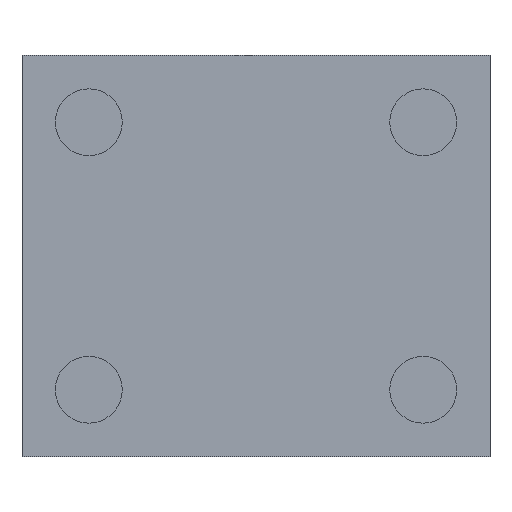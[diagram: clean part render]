
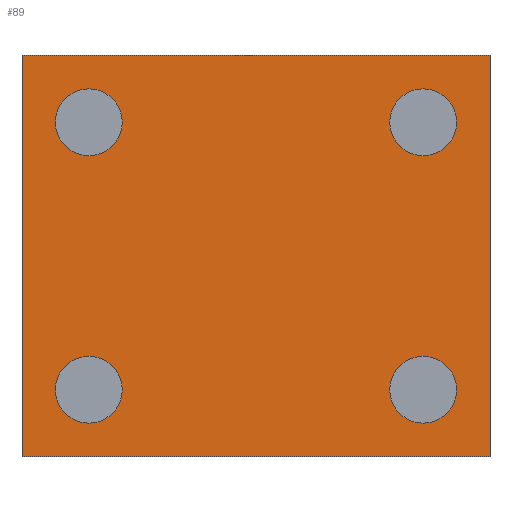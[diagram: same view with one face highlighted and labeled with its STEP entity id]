
A CAD part, left-side view. The second image highlights one B-rep face of the part: STEP entity #89.
In plain terms, the highlighted planar face has unit normal (-1, 0, 0).
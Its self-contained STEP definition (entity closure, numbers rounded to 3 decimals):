
#89=ADVANCED_FACE('',(#202,#203,#204,#205,#206),#207,.T.);
#202=FACE_OUTER_BOUND('',#338,.T.);
#203=FACE_BOUND('',#339,.T.);
#204=FACE_BOUND('',#340,.T.);
#205=FACE_BOUND('',#341,.T.);
#206=FACE_BOUND('',#342,.T.);
#207=PLANE('',#343);
#338=EDGE_LOOP('',(#536,#537,#538,#539));
#339=EDGE_LOOP('',(#540,#541));
#340=EDGE_LOOP('',(#542,#543));
#341=EDGE_LOOP('',(#544,#545));
#342=EDGE_LOOP('',(#546,#547));
#343=AXIS2_PLACEMENT_3D('',#548,#549,#550);
#536=ORIENTED_EDGE('',*,*,#838,.T.);
#537=ORIENTED_EDGE('',*,*,#839,.F.);
#538=ORIENTED_EDGE('',*,*,#840,.T.);
#539=ORIENTED_EDGE('',*,*,#841,.T.);
#540=ORIENTED_EDGE('',*,*,#779,.T.);
#541=ORIENTED_EDGE('',*,*,#842,.T.);
#542=ORIENTED_EDGE('',*,*,#824,.T.);
#543=ORIENTED_EDGE('',*,*,#843,.T.);
#544=ORIENTED_EDGE('',*,*,#844,.T.);
#545=ORIENTED_EDGE('',*,*,#845,.T.);
#546=ORIENTED_EDGE('',*,*,#796,.T.);
#547=ORIENTED_EDGE('',*,*,#834,.T.);
#548=CARTESIAN_POINT('',(-5.,80.0,-30.0));
#549=DIRECTION('',(-1.0,0.,0.0));
#550=DIRECTION('',(0.,-1.0,0.0));
#779=EDGE_CURVE('',#911,#915,#917,.T.);
#796=EDGE_CURVE('',#940,#944,#946,.T.);
#824=EDGE_CURVE('',#991,#995,#997,.T.);
#834=EDGE_CURVE('',#944,#940,#1011,.T.);
#838=EDGE_CURVE('',#1015,#1016,#1017,.T.);
#839=EDGE_CURVE('',#1018,#1016,#1019,.T.);
#840=EDGE_CURVE('',#1018,#1020,#1021,.T.);
#841=EDGE_CURVE('',#1020,#1015,#1022,.T.);
#842=EDGE_CURVE('',#915,#911,#1023,.T.);
#843=EDGE_CURVE('',#995,#991,#1024,.T.);
#844=EDGE_CURVE('',#1025,#1026,#1027,.T.);
#845=EDGE_CURVE('',#1026,#1025,#1028,.T.);
#911=VERTEX_POINT('',#1108);
#915=VERTEX_POINT('',#1113);
#917=CIRCLE('',#1116,5.0);
#940=VERTEX_POINT('',#1141);
#944=VERTEX_POINT('',#1146);
#946=CIRCLE('',#1149,5.0);
#991=VERTEX_POINT('',#1206);
#995=VERTEX_POINT('',#1211);
#997=CIRCLE('',#1214,5.0);
#1011=CIRCLE('',#1233,5.0);
#1015=VERTEX_POINT('',#1237);
#1016=VERTEX_POINT('',#1238);
#1017=LINE('',#1239,#1240);
#1018=VERTEX_POINT('',#1241);
#1019=LINE('',#1242,#1243);
#1020=VERTEX_POINT('',#1244);
#1021=LINE('',#1245,#1246);
#1022=LINE('',#1247,#1248);
#1023=CIRCLE('',#1249,5.0);
#1024=CIRCLE('',#1250,5.0);
#1025=VERTEX_POINT('',#1251);
#1026=VERTEX_POINT('',#1252);
#1027=CIRCLE('',#1253,5.0);
#1028=CIRCLE('',#1254,5.0);
#1108=CARTESIAN_POINT('',(-5.,55.0,-25.0));
#1113=CARTESIAN_POINT('',(-5.,55.0,-15.0));
#1116=AXIS2_PLACEMENT_3D('',#1358,#1359,#1360);
#1141=CARTESIAN_POINT('',(-5.,105.0,15.0));
#1146=CARTESIAN_POINT('',(-5.,105.0,25.0));
#1149=AXIS2_PLACEMENT_3D('',#1389,#1390,#1391);
#1206=CARTESIAN_POINT('',(-5.,105.0,-25.0));
#1211=CARTESIAN_POINT('',(-5.,105.0,-15.0));
#1214=AXIS2_PLACEMENT_3D('',#1436,#1437,#1438);
#1233=AXIS2_PLACEMENT_3D('',#1447,#1448,#1449);
#1237=CARTESIAN_POINT('',(-5.,45.0,30.0));
#1238=CARTESIAN_POINT('',(-5.,115.0,30.0));
#1239=CARTESIAN_POINT('',(-5.,115.0,30.0));
#1240=VECTOR('',#1453,1.0);
#1241=CARTESIAN_POINT('',(-5.,115.0,-30.0));
#1242=CARTESIAN_POINT('',(-5.,115.0,-30.0));
#1243=VECTOR('',#1454,1.0);
#1244=CARTESIAN_POINT('',(-5.,45.0,-30.0));
#1245=CARTESIAN_POINT('',(-5.,115.0,-30.0));
#1246=VECTOR('',#1455,1.0);
#1247=CARTESIAN_POINT('',(-5.,45.0,-30.0));
#1248=VECTOR('',#1456,1.0);
#1249=AXIS2_PLACEMENT_3D('',#1457,#1458,#1459);
#1250=AXIS2_PLACEMENT_3D('',#1460,#1461,#1462);
#1251=CARTESIAN_POINT('',(-5.,55.0,15.0));
#1252=CARTESIAN_POINT('',(-5.,55.0,25.0));
#1253=AXIS2_PLACEMENT_3D('',#1463,#1464,#1465);
#1254=AXIS2_PLACEMENT_3D('',#1466,#1467,#1468);
#1358=CARTESIAN_POINT('',(-5.,55.0,-20.0));
#1359=DIRECTION('',(1.0,0.,0.));
#1360=DIRECTION('',(0.0,0.,-1.0));
#1389=CARTESIAN_POINT('',(-5.,105.0,20.0));
#1390=DIRECTION('',(1.0,0.,0.));
#1391=DIRECTION('',(0.0,0.,-1.0));
#1436=CARTESIAN_POINT('',(-5.,105.0,-20.0));
#1437=DIRECTION('',(1.0,0.,0.));
#1438=DIRECTION('',(0.0,0.,-1.0));
#1447=CARTESIAN_POINT('',(-5.,105.0,20.0));
#1448=DIRECTION('',(1.0,0.,0.));
#1449=DIRECTION('',(0.0,0.,-1.0));
#1453=DIRECTION('',(0.,1.0,0.0));
#1454=DIRECTION('',(0.0,0.0,1.0));
#1455=DIRECTION('',(0.,-1.0,0.0));
#1456=DIRECTION('',(0.0,0.0,1.0));
#1457=CARTESIAN_POINT('',(-5.,55.0,-20.0));
#1458=DIRECTION('',(1.0,0.,0.));
#1459=DIRECTION('',(0.0,0.,-1.0));
#1460=CARTESIAN_POINT('',(-5.,105.0,-20.0));
#1461=DIRECTION('',(1.0,0.,0.));
#1462=DIRECTION('',(0.0,0.,-1.0));
#1463=CARTESIAN_POINT('',(-5.,55.0,20.0));
#1464=DIRECTION('',(1.0,0.,0.));
#1465=DIRECTION('',(0.0,0.,-1.0));
#1466=CARTESIAN_POINT('',(-5.,55.0,20.0));
#1467=DIRECTION('',(1.0,0.,0.));
#1468=DIRECTION('',(0.0,0.,-1.0));
